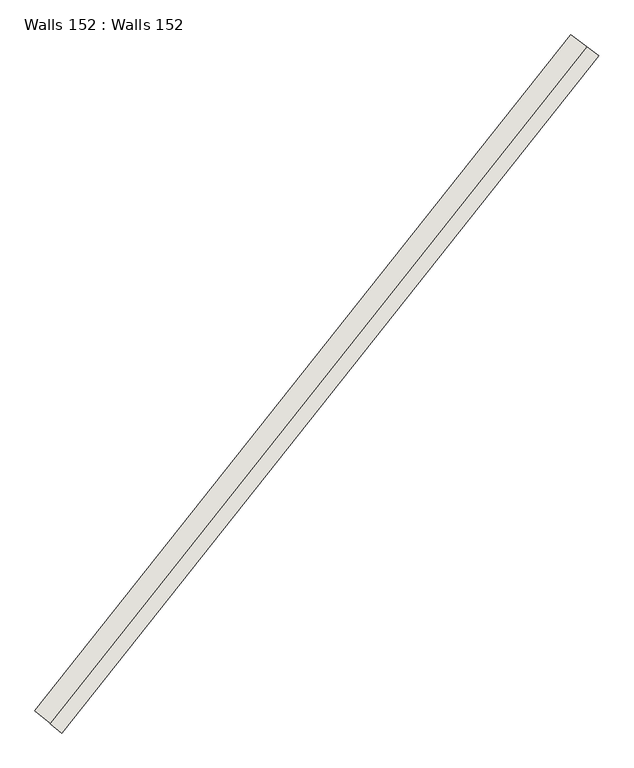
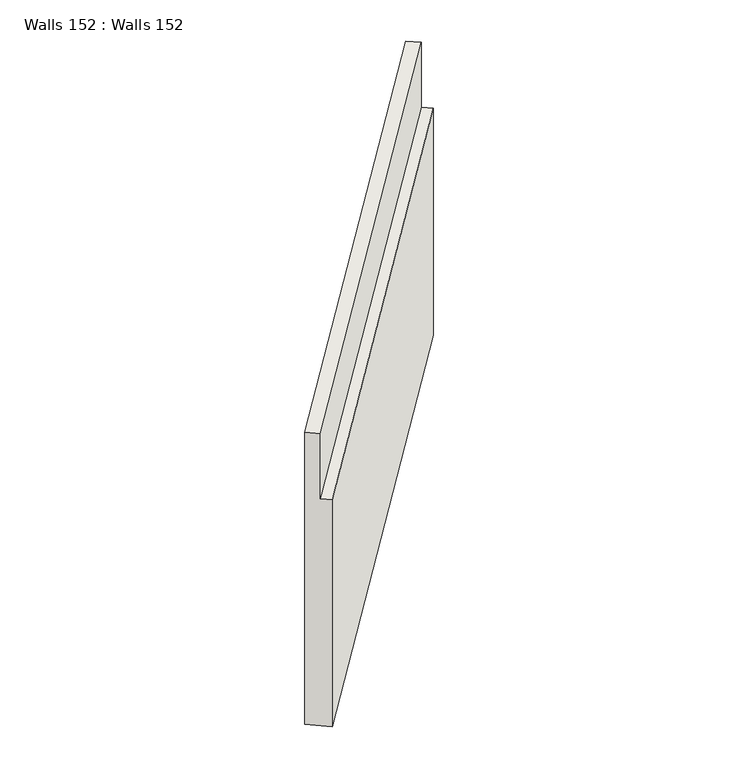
"""IFC4 building model written with IfcOpenShell, lengths in millimetres: wall geometry, Walls 152 : Walls 152."""

from ifc_helpers import new_model, si_unit, frame, origin, place, context, project, spatial, polyline, circle_curve, source, transform, mapped, element, save
from ifc_brep_helpers import plane_surface, cylinder_surface, revolved_surface, advanced_brep


def walls_152_walls_152_6169dfe8(model_context):
    return source(origin(), model_context, "Body", "AdvancedBrep", [
        advanced_brep(
        [(560063.9258792, 469554.2092521, 658567.0), (560063.9258792, 469554.2092521, 654067.0), (560332.6607922, 469329.9737809, 654067.0), (560332.6607922, 469329.9737809, 657567.0), (560217.4886866, 469426.0746972, 657567.0), (560217.4886866, 469426.0746972, 658567.0), (565469.4722579, 476369.9616388, 658567.0), (565629.2128326, 476249.6165151, 658567.0), (565629.2128326, 476249.6165151, 657567.0), (565749.0182636, 476159.3576724, 657567.0), (565749.0182636, 476159.3576724, 654067.0), (565469.4722579, 476369.9616388, 654067.0)],
        [
            (0, 1),
            (1, 2),
            (2, 3),
            (3, 4),
            (4, 5),
            (5, 0),
            (6, 7),
            (7, 8),
            (8, 9),
            (9, 10),
            (10, 11),
            (11, 6),
            (11, 1, circle_curve(frame((425696.469057, 581671.9451099, 654067.0), z_axis=(0.0, 0.0, -1.0), x_axis=(0.7678140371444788, -0.6406727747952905, 0.0)), 175000.0004192)),
            (0, 6, circle_curve(frame((425696.469057, 581671.9451099, 658567.0), z_axis=(0.0, 0.0, 1.0), x_axis=(0.7678140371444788, -0.6406727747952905, 0.0)), 175000.0004192)),
            (10, 2, circle_curve(frame((425696.469057, 581671.9451099, 654067.0), z_axis=(0.0, 0.0, -1.0), x_axis=(0.7678140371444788, -0.6406727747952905, 0.0)), 175350.0004192)),
            (9, 3, circle_curve(frame((425696.469057, 581671.9451099, 657567.0), z_axis=(0.0, 0.0, -1.0), x_axis=(0.7678140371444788, -0.6406727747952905, 0.0)), 175350.0004192)),
            (8, 4, circle_curve(frame((425696.469057, 581671.9451099, 657567.0), z_axis=(0.0, 0.0, -1.0), x_axis=(0.7678140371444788, -0.6406727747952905, 0.0)), 175200.0004192)),
            (7, 5, circle_curve(frame((425696.469057, 581671.9451099, 658567.0), z_axis=(0.0, 0.0, -1.0), x_axis=(0.7678140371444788, -0.6406727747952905, 0.0)), 175200.0004192)),
        ],
        [
            plane_surface(frame((560063.9258792, 469554.2092521, 0.0), z_axis=(-0.6406727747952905, -0.7678140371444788, 0.0), x_axis=(0.0, 0.0, 1.0))),
            plane_surface(frame((565469.4722579, 476369.9616388, 0.0), z_axis=(0.6017256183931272, 0.7987028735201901, 0.0), x_axis=(0.0, 0.0, 1.0))),
            revolved_surface(polyline([(560063.9258791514, 469554.2092521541, 658567.0), (560063.9258791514, 469554.2092521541, 654067.0)]), (425696.469057, 581671.9451099, 0.0), (0.0, 0.0, 1.0)),
            plane_surface(frame((425696.469057, 581671.9451099, 654067.0), z_axis=(0.0, 0.0, -1.0), x_axis=(0.7678140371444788, -0.6406727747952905, 0.0))),
            cylinder_surface(frame((425696.469057, 581671.9451099, 0.0), z_axis=(0.0, 0.0, 1.0), x_axis=(0.7678140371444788, -0.6406727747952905, 0.0)), 175350.0004192),
            plane_surface(frame((425696.469057, 581671.9451099, 657567.0), z_axis=(0.0, 0.0, 1.0), x_axis=(0.7678140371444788, -0.6406727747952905, 0.0))),
            cylinder_surface(frame((425696.469057, 581671.9451099, 0.0), z_axis=(0.0, 0.0, 1.0), x_axis=(0.7678140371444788, -0.6406727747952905, 0.0)), 175200.0004192),
            plane_surface(frame((425696.469057, 581671.9451099, 658567.0), z_axis=(0.0, 0.0, 1.0), x_axis=(0.7678140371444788, -0.6406727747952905, 0.0))),
        ],
        [
            (0, [[1, 2, 3, 4, 5, 6]]),
            (1, [[7, 8, 9, 10, 11, 12]]),
            (2, [[13, -1, 14, -12]]),
            (3, [[15, -2, -13, -11]]),
            (4, [[16, -3, -15, -10]]),
            (5, [[17, -4, -16, -9]]),
            (6, [[18, -5, -17, -8]]),
            (7, [[-14, -6, -18, -7]]),
        ],
    ),
    ])


if __name__ == "__main__":
    model = new_model("IFC4")
    model_context = context("Model", 3, world=origin())
    ifc_project = project(units=[si_unit("LENGTHUNIT", "METRE", prefix="MILLI")], contexts=[model_context])
    site = spatial("IfcSite", under=ifc_project)
    building = spatial("IfcBuilding", under=site)
    placement = place(None, origin())
    walls_152_walls_152_shape = walls_152_walls_152_6169dfe8(model_context)
    element("IfcWall", 1, ObjectType="Walls 152 : Walls 152", at=placement, inside=building, context=model_context, shape_type="MappedRepresentation", body=[
        mapped(walls_152_walls_152_shape, transform((0.0, 0.0, 0.0), x_axis=(1.0, 0.0, 0.0), y_axis=(0.0, 1.0, 0.0), z_axis=(0.0, 0.0, 1.0))),
    ])
    save(model, "model.ifc")
